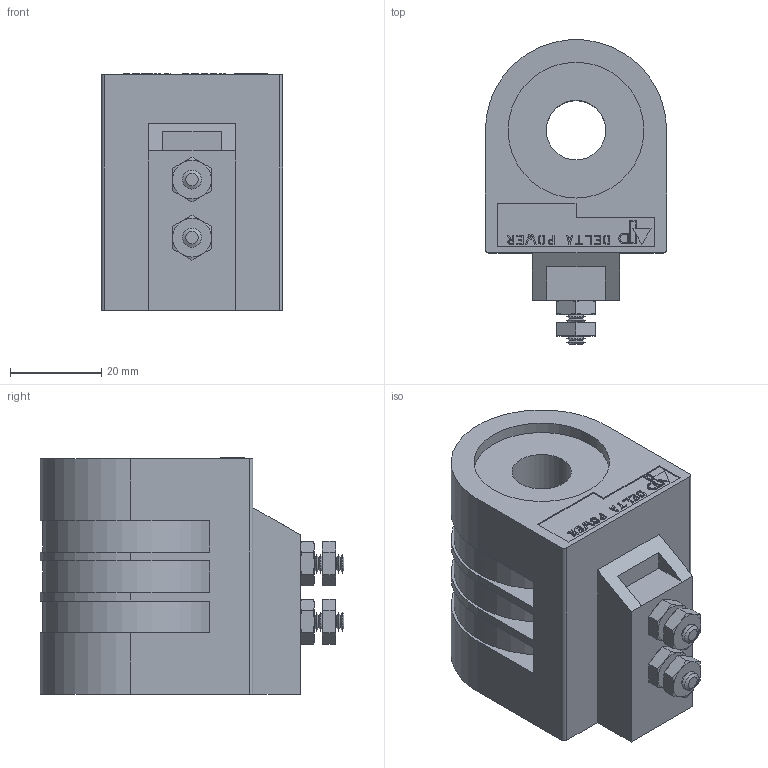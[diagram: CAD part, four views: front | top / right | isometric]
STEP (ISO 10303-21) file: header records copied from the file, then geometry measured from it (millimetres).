
FILE_DESCRIPTION((''),'2;1');
FILE_NAME('U:\Solid model CD\Solid model full\Coils\STEP\DDP.stp','2009-01-16T15:05:38',('Dan'),(''),'Autodesk Inventor 2009','Autodesk Inventor 2009','');
FILE_SCHEMA(('AUTOMOTIVE_DESIGN { 1 0 10303 214 1 1 1 1 }'));
Length unit declared in the file: inch
Products named in the file (1): DDP
Bounding box: 39.62 x 66.48 x 51.82 mm (x, y, z)
Volume: 81468.8 mm3; surface area: 17067 mm2
Topology: 13 solids, 13 shells, 306 faces, 748 edges, 479 vertices
Faces by surface type: plane 208, cone 68, cylinder 30
Full cylindrical faces by diameter (mm): 13.005 x1, 29.694 x2
Entity records: 8662 total; most frequent: CARTESIAN_POINT 1689, ORIENTED_EDGE 1436, DIRECTION 1368, EDGE_CURVE 718, VECTOR 490, LINE 490, VERTEX_POINT 472, AXIS2_PLACEMENT_3D 439
